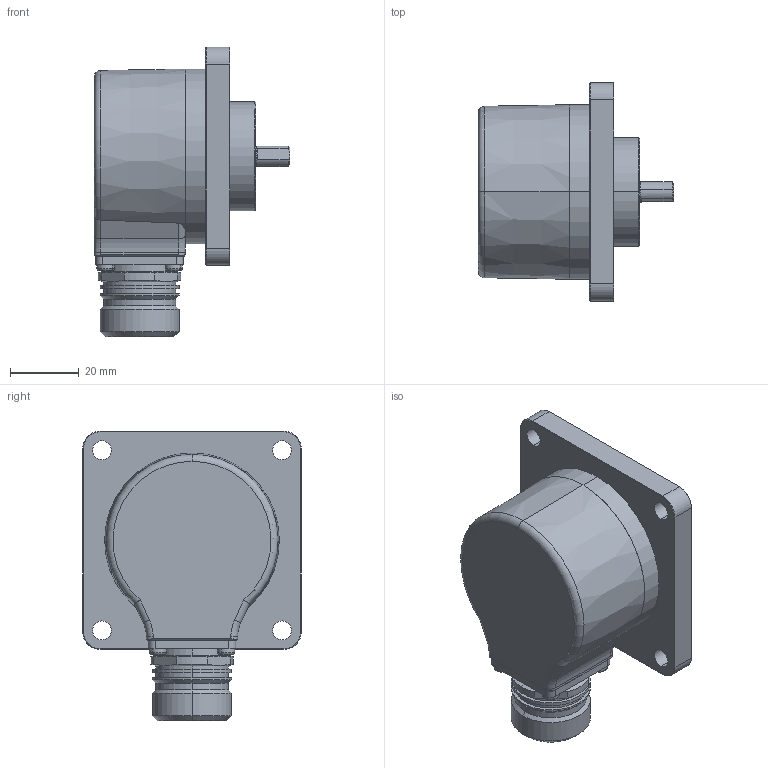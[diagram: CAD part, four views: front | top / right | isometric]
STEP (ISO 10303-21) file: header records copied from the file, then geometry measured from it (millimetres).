
FILE_DESCRIPTION (( 'STEP AP214' ), '1' );
FILE_NAME ('5000.D1X8.XXXX.STEP', '2009-01-14T10:12:19', ( 'admin' ), ( 'Fritz Kübler GmbH' ), 'SwSTEP 2.0', 'SolidWorks 2008', '' );
FILE_SCHEMA (( 'AUTOMOTIVE_DESIGN' ));
Length unit declared in the file: millimetre
Products named in the file (1): 5000.D1X8.XXXX
Bounding box: 57 x 63.5 x 84.25 mm (x, y, z)
Volume: 66357.5 mm3; surface area: 42265.1 mm2
Topology: 22 solids, 25 shells, 884 faces, 2014 edges, 1215 vertices
Faces by surface type: cylinder 366, plane 224, cone 139, torus 89, sphere 56, bspline 10
Entity records: 35408 total; most frequent: CARTESIAN_POINT 5256, DIRECTION 4688, ORIENTED_EDGE 3860, AXIS2_PLACEMENT_3D 1987, EDGE_CURVE 1930, VERTEX_POINT 1185, CIRCLE 1112, EDGE_LOOP 1047
